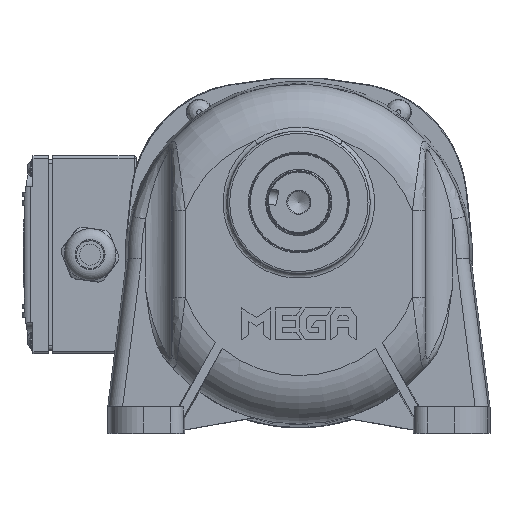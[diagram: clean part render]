
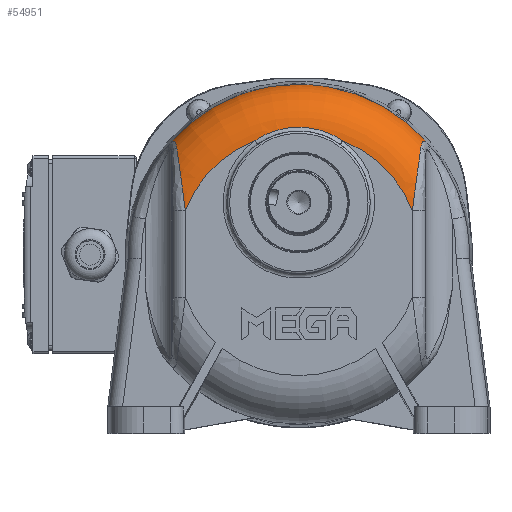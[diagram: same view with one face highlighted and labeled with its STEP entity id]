
A CAD part, top view. The second image highlights one B-rep face of the part: STEP entity #54951.
In plain terms, the highlighted toroidal (fillet/blend) face has major radius 55.343 mm and minor radius 22 mm.
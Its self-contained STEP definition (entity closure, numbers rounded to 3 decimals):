
#1260=TOROIDAL_SURFACE('',#59234,55.343,22.);
#1716=B_SPLINE_CURVE_WITH_KNOTS('',3,(#89236,#89237,#89238,#89239,#89240,
#89241,#89242),.UNSPECIFIED.,.F.,.F.,(4,1,1,1,4),(-0.938,-0.67,
-0.536,-0.268,0.),
 .UNSPECIFIED.);
#1717=B_SPLINE_CURVE_WITH_KNOTS('',3,(#89288,#89289,#89290,#89291,#89292,
#89293,#89294),.UNSPECIFIED.,.F.,.F.,(4,1,1,1,4),(-9.38,-8.993,
-8.607,-7.833,-6.673),.UNSPECIFIED.);
#1723=B_SPLINE_CURVE_WITH_KNOTS('',3,(#89486,#89487,#89488,#89489,#89490,
#89491,#89492),.UNSPECIFIED.,.F.,.F.,(4,1,1,1,4),(0.,
0.608,1.824,3.039,4.255),
 .UNSPECIFIED.);
#1724=B_SPLINE_CURVE_WITH_KNOTS('',3,(#89497,#89498,#89499,#89500,#89501,
#89502,#89503),.UNSPECIFIED.,.F.,.F.,(4,1,1,1,4),(-0.938,-0.67,
-0.536,-0.268,0.),.UNSPECIFIED.);
#1725=B_SPLINE_CURVE_WITH_KNOTS('',3,(#89505,#89506,#89507,#89508,#89509,
#89510,#89511,#89512),.UNSPECIFIED.,.F.,.F.,(4,1,1,1,1,4),(-2.707,
-1.934,-1.16,-0.774,-0.387,
0.),.UNSPECIFIED.);
#8393=FACE_OUTER_BOUND('',#11829,.T.);
#11829=EDGE_LOOP('',(#41948,#41949,#41950,#41951,#41952,#41953,#41954,#41955));
#21445=CIRCLE('',#59235,55.343);
#21446=CIRCLE('',#59236,77.335);
#21447=CIRCLE('',#59237,55.343);
#25540=VERTEX_POINT('',#89198);
#25541=VERTEX_POINT('',#89235);
#25542=VERTEX_POINT('',#89286);
#25550=VERTEX_POINT('',#89484);
#25551=VERTEX_POINT('',#89485);
#25552=VERTEX_POINT('',#89494);
#25553=VERTEX_POINT('',#89496);
#25554=VERTEX_POINT('',#89504);
#31422=EDGE_CURVE('',#25540,#25541,#1716,.T.);
#31425=EDGE_CURVE('',#25541,#25542,#1717,.T.);
#31439=EDGE_CURVE('',#25550,#25551,#1723,.T.);
#31440=EDGE_CURVE('',#25550,#25542,#21445,.T.);
#31441=EDGE_CURVE('',#25552,#25540,#21446,.F.);
#31442=EDGE_CURVE('',#25553,#25552,#1724,.T.);
#31443=EDGE_CURVE('',#25554,#25553,#1725,.T.);
#31444=EDGE_CURVE('',#25554,#25551,#21447,.T.);
#41948=ORIENTED_EDGE('',*,*,#31439,.F.);
#41949=ORIENTED_EDGE('',*,*,#31440,.T.);
#41950=ORIENTED_EDGE('',*,*,#31425,.F.);
#41951=ORIENTED_EDGE('',*,*,#31422,.F.);
#41952=ORIENTED_EDGE('',*,*,#31441,.F.);
#41953=ORIENTED_EDGE('',*,*,#31442,.F.);
#41954=ORIENTED_EDGE('',*,*,#31443,.F.);
#41955=ORIENTED_EDGE('',*,*,#31444,.T.);
#54951=ADVANCED_FACE('',(#8393),#1260,.T.);
#59234=AXIS2_PLACEMENT_3D('',#89483,#68655,#68656);
#59235=AXIS2_PLACEMENT_3D('',#89493,#68657,#68658);
#59236=AXIS2_PLACEMENT_3D('',#89495,#68659,#68660);
#59237=AXIS2_PLACEMENT_3D('',#89513,#68661,#68662);
#68655=DIRECTION('center_axis',(0.,0.,-1.));
#68656=DIRECTION('ref_axis',(-1.,0.,0.));
#68657=DIRECTION('center_axis',(0.,0.,-1.));
#68658=DIRECTION('ref_axis',(-1.,0.,0.));
#68659=DIRECTION('center_axis',(0.,0.,1.));
#68660=DIRECTION('ref_axis',(-1.,0.,0.));
#68661=DIRECTION('center_axis',(0.,0.,-1.));
#68662=DIRECTION('ref_axis',(-1.,0.,0.));
#89198=CARTESIAN_POINT('',(47.684,44.141,11.076));
#89235=CARTESIAN_POINT('',(44.766,42.138,22.443));
#89236=CARTESIAN_POINT('Ctrl Pts',(47.684,44.141,11.076));
#89237=CARTESIAN_POINT('Ctrl Pts',(47.27,44.582,12.035));
#89238=CARTESIAN_POINT('Ctrl Pts',(46.662,45.058,13.641));
#89239=CARTESIAN_POINT('Ctrl Pts',(45.794,45.083,16.591));
#89240=CARTESIAN_POINT('Ctrl Pts',(45.151,44.239,19.563));
#89241=CARTESIAN_POINT('Ctrl Pts',(44.873,42.885,21.558));
#89242=CARTESIAN_POINT('Ctrl Pts',(44.766,42.138,22.443));
#89286=CARTESIAN_POINT('',(40.844,13.4,32.5));
#89288=CARTESIAN_POINT('Ctrl Pts',(44.766,42.138,22.443));
#89289=CARTESIAN_POINT('Ctrl Pts',(44.612,41.059,23.72));
#89290=CARTESIAN_POINT('Ctrl Pts',(44.27,38.617,25.986));
#89291=CARTESIAN_POINT('Ctrl Pts',(43.51,33.175,29.327));
#89292=CARTESIAN_POINT('Ctrl Pts',(42.293,24.494,32.108));
#89293=CARTESIAN_POINT('Ctrl Pts',(41.331,17.468,32.5));
#89294=CARTESIAN_POINT('Ctrl Pts',(40.844,13.4,32.5));
#89483=CARTESIAN_POINT('Origin',(-10.824,-6.432,10.5));
#89484=CARTESIAN_POINT('',(9.204,45.16,32.5));
#89485=CARTESIAN_POINT('',(-30.851,45.16,32.5));
#89486=CARTESIAN_POINT('Ctrl Pts',(9.204,45.16,32.5));
#89487=CARTESIAN_POINT('Ctrl Pts',(7.539,46.298,32.5));
#89488=CARTESIAN_POINT('Ctrl Pts',(2.194,49.318,32.455));
#89489=CARTESIAN_POINT('Ctrl Pts',(-7.761,51.915,32.336));
#89490=CARTESIAN_POINT('Ctrl Pts',(-20.036,50.857,32.393));
#89491=CARTESIAN_POINT('Ctrl Pts',(-27.521,47.435,32.5));
#89492=CARTESIAN_POINT('Ctrl Pts',(-30.851,45.16,32.5));
#89493=CARTESIAN_POINT('Origin',(-10.824,-6.432,32.5));
#89494=CARTESIAN_POINT('',(-69.331,44.141,11.076));
#89495=CARTESIAN_POINT('Origin',(-10.824,-6.432,11.076));
#89496=CARTESIAN_POINT('',(-66.413,42.138,22.443));
#89497=CARTESIAN_POINT('Ctrl Pts',(-66.413,42.138,22.443));
#89498=CARTESIAN_POINT('Ctrl Pts',(-66.52,42.885,21.558));
#89499=CARTESIAN_POINT('Ctrl Pts',(-66.73,43.887,20.069));
#89500=CARTESIAN_POINT('Ctrl Pts',(-67.29,44.963,17.231));
#89501=CARTESIAN_POINT('Ctrl Pts',(-68.097,45.231,14.193));
#89502=CARTESIAN_POINT('Ctrl Pts',(-68.917,44.582,12.035));
#89503=CARTESIAN_POINT('Ctrl Pts',(-69.331,44.141,11.076));
#89504=CARTESIAN_POINT('',(-62.491,13.4,32.5));
#89505=CARTESIAN_POINT('Ctrl Pts',(-62.491,13.4,32.5));
#89506=CARTESIAN_POINT('Ctrl Pts',(-62.815,16.111,32.5));
#89507=CARTESIAN_POINT('Ctrl Pts',(-63.544,21.648,32.283));
#89508=CARTESIAN_POINT('Ctrl Pts',(-64.553,28.857,30.838));
#89509=CARTESIAN_POINT('Ctrl Pts',(-65.349,34.553,28.484));
#89510=CARTESIAN_POINT('Ctrl Pts',(-65.916,38.615,25.984));
#89511=CARTESIAN_POINT('Ctrl Pts',(-66.259,41.059,23.72));
#89512=CARTESIAN_POINT('Ctrl Pts',(-66.413,42.138,22.443));
#89513=CARTESIAN_POINT('Origin',(-10.824,-6.432,32.5));
